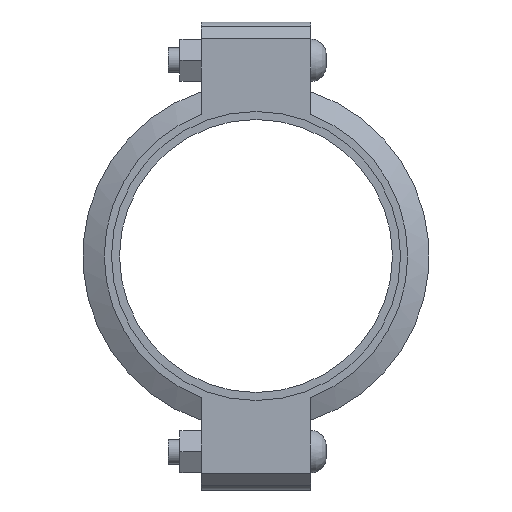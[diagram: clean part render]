
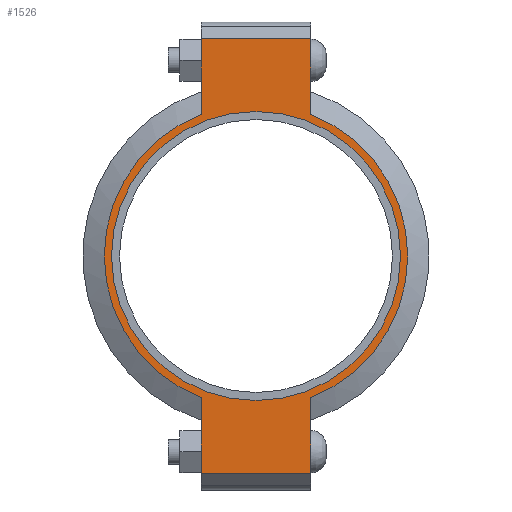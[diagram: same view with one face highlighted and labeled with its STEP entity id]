
A CAD part, left-side view. The second image highlights one B-rep face of the part: STEP entity #1526.
In plain terms, the highlighted planar face has unit normal (-1, 0, 0) as drawn and (0, 0, 1) by its records, which use the part's own axes.
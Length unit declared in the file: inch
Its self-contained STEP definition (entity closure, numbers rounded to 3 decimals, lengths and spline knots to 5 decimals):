
#150=LINE('',#2672,#243);
#158=LINE('',#2708,#251);
#165=LINE('',#2729,#258);
#174=LINE('',#2761,#267);
#175=LINE('',#2765,#268);
#176=LINE('',#2767,#269);
#243=VECTOR('',#2184,0.3937);
#251=VECTOR('',#2200,0.3937);
#258=VECTOR('',#2219,0.3937);
#267=VECTOR('',#2244,0.3937);
#268=VECTOR('',#2249,0.3937);
#269=VECTOR('',#2250,0.3937);
#325=FACE_BOUND('',#503,.T.);
#397=FACE_OUTER_BOUND('',#502,.T.);
#502=EDGE_LOOP('',(#1267,#1268,#1269,#1270,#1271,#1272,#1273,#1274));
#503=EDGE_LOOP('',(#1275));
#575=CIRCLE('',#1754,4.3125);
#601=CIRCLE('',#1813,4.53);
#602=CIRCLE('',#1814,4.53);
#667=VERTEX_POINT('',#2488);
#710=VERTEX_POINT('',#2669);
#711=VERTEX_POINT('',#2671);
#722=VERTEX_POINT('',#2703);
#723=VERTEX_POINT('',#2707);
#730=VERTEX_POINT('',#2726);
#731=VERTEX_POINT('',#2728);
#741=VERTEX_POINT('',#2764);
#742=VERTEX_POINT('',#2766);
#823=EDGE_CURVE('',#667,#667,#575,.T.);
#884=EDGE_CURVE('',#711,#710,#150,.T.);
#898=EDGE_CURVE('',#723,#722,#158,.T.);
#908=EDGE_CURVE('',#731,#730,#165,.T.);
#923=EDGE_CURVE('',#723,#710,#174,.T.);
#924=EDGE_CURVE('',#722,#731,#601,.T.);
#925=EDGE_CURVE('',#741,#730,#175,.T.);
#926=EDGE_CURVE('',#741,#742,#176,.T.);
#927=EDGE_CURVE('',#742,#711,#602,.T.);
#1267=ORIENTED_EDGE('',*,*,#923,.F.);
#1268=ORIENTED_EDGE('',*,*,#898,.T.);
#1269=ORIENTED_EDGE('',*,*,#924,.T.);
#1270=ORIENTED_EDGE('',*,*,#908,.T.);
#1271=ORIENTED_EDGE('',*,*,#925,.F.);
#1272=ORIENTED_EDGE('',*,*,#926,.T.);
#1273=ORIENTED_EDGE('',*,*,#927,.T.);
#1274=ORIENTED_EDGE('',*,*,#884,.T.);
#1275=ORIENTED_EDGE('',*,*,#823,.T.);
#1368=PLANE('',#1812);
#1526=ADVANCED_FACE('',(#397,#325),#1368,.T.);
#1754=AXIS2_PLACEMENT_3D('',#2490,#2060,#2061);
#1812=AXIS2_PLACEMENT_3D('',#2762,#2245,#2246);
#1813=AXIS2_PLACEMENT_3D('',#2763,#2247,#2248);
#1814=AXIS2_PLACEMENT_3D('',#2768,#2251,#2252);
#2060=DIRECTION('center_axis',(0.,0.,-1.));
#2061=DIRECTION('ref_axis',(1.,0.,0.));
#2184=DIRECTION('',(1.,0.,0.));
#2200=DIRECTION('',(-1.,0.,0.));
#2219=DIRECTION('',(-1.,0.,0.));
#2244=DIRECTION('',(0.,-1.,0.));
#2245=DIRECTION('center_axis',(0.,0.,1.));
#2246=DIRECTION('ref_axis',(-1.,0.,0.));
#2247=DIRECTION('center_axis',(0.,0.,1.));
#2248=DIRECTION('ref_axis',(1.,0.,0.));
#2249=DIRECTION('',(0.,1.,0.));
#2250=DIRECTION('',(1.,0.,0.));
#2251=DIRECTION('center_axis',(0.,0.,1.));
#2252=DIRECTION('ref_axis',(1.,0.,0.));
#2488=CARTESIAN_POINT('',(-4.3125,0.,1.16));
#2490=CARTESIAN_POINT('Origin',(0.,0.,1.16));
#2669=CARTESIAN_POINT('',(6.485,-1.63,1.16));
#2671=CARTESIAN_POINT('',(4.22658,-1.63,1.16));
#2672=CARTESIAN_POINT('',(6.985,-1.63,1.16));
#2703=CARTESIAN_POINT('',(4.22658,1.63,1.16));
#2707=CARTESIAN_POINT('',(6.485,1.63,1.16));
#2708=CARTESIAN_POINT('',(-6.985,1.63,1.16));
#2726=CARTESIAN_POINT('',(-6.485,1.63,1.16));
#2728=CARTESIAN_POINT('',(-4.22658,1.63,1.16));
#2729=CARTESIAN_POINT('',(-6.985,1.63,1.16));
#2761=CARTESIAN_POINT('',(6.485,-0.815,1.16));
#2762=CARTESIAN_POINT('Origin',(0.,0.,
1.16));
#2763=CARTESIAN_POINT('Origin',(0.,0.,1.16));
#2764=CARTESIAN_POINT('',(-6.485,-1.63,1.16));
#2765=CARTESIAN_POINT('',(-6.485,0.815,1.16));
#2766=CARTESIAN_POINT('',(-4.22658,-1.63,1.16));
#2767=CARTESIAN_POINT('',(6.985,-1.63,1.16));
#2768=CARTESIAN_POINT('Origin',(0.,0.,1.16));
